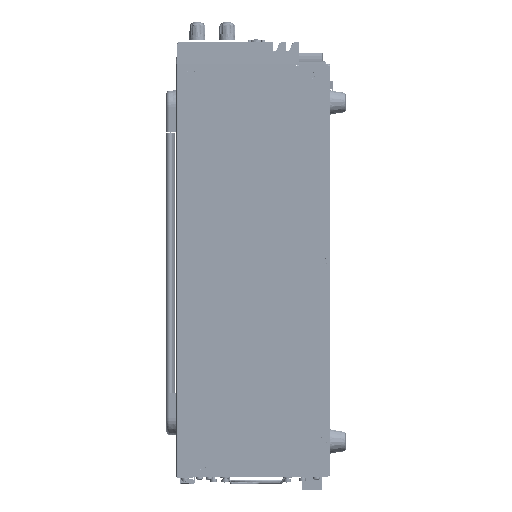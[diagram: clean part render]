
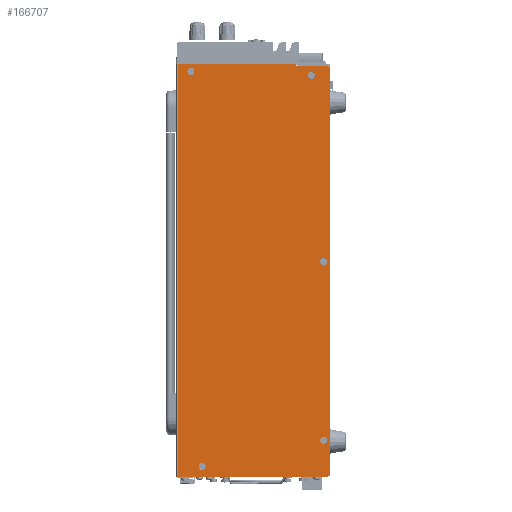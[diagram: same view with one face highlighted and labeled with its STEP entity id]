
A CAD part, left-side view. The second image highlights one B-rep face of the part: STEP entity #166707.
In plain terms, the highlighted planar face has unit normal (-1, 0, 0).
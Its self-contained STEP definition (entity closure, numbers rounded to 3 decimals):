
#164111=CARTESIAN_POINT('',(-177.2,112.,-6.));
#164112=DIRECTION('',(-1.,0.,0.));
#164113=DIRECTION('',(0.,1.,0.));
#164114=AXIS2_PLACEMENT_3D('',#164111,#164112,#164113);
#164116=CARTESIAN_POINT('',(-177.2,112.,-6.));
#164117=DIRECTION('',(-1.,0.,0.));
#164118=DIRECTION('',(0.,-1.,0.));
#164119=AXIS2_PLACEMENT_3D('',#164116,#164117,#164118);
#164121=CARTESIAN_POINT('',(-177.2,15.2,-9.));
#164122=DIRECTION('',(-1.,0.,0.));
#164123=DIRECTION('',(0.,1.,0.));
#164124=AXIS2_PLACEMENT_3D('',#164121,#164122,#164123);
#164126=CARTESIAN_POINT('',(-177.2,15.2,-9.));
#164127=DIRECTION('',(-1.,0.,0.));
#164128=DIRECTION('',(0.,-1.,0.));
#164129=AXIS2_PLACEMENT_3D('',#164126,#164127,#164128);
#164131=CARTESIAN_POINT('',(-177.2,5.2,-159.));
#164132=DIRECTION('',(-1.,0.,0.));
#164133=DIRECTION('',(0.,1.,0.));
#164134=AXIS2_PLACEMENT_3D('',#164131,#164132,#164133);
#164136=CARTESIAN_POINT('',(-177.2,5.2,-159.));
#164137=DIRECTION('',(-1.,0.,0.));
#164138=DIRECTION('',(0.,-1.,0.));
#164139=AXIS2_PLACEMENT_3D('',#164136,#164137,#164138);
#164141=CARTESIAN_POINT('',(-177.2,5.2,-303.));
#164142=DIRECTION('',(-1.,0.,0.));
#164143=DIRECTION('',(0.,1.,0.));
#164144=AXIS2_PLACEMENT_3D('',#164141,#164142,#164143);
#164146=CARTESIAN_POINT('',(-177.2,5.2,-303.));
#164147=DIRECTION('',(-1.,0.,0.));
#164148=DIRECTION('',(0.,-1.,0.));
#164149=AXIS2_PLACEMENT_3D('',#164146,#164147,#164148);
#164151=CARTESIAN_POINT('',(-177.2,103.,-324.));
#164152=DIRECTION('',(-1.,0.,0.));
#164153=DIRECTION('',(0.,1.,0.));
#164154=AXIS2_PLACEMENT_3D('',#164151,#164152,#164153);
#164156=CARTESIAN_POINT('',(-177.2,103.,-324.));
#164157=DIRECTION('',(-1.,0.,0.));
#164158=DIRECTION('',(0.,-1.,0.));
#164159=AXIS2_PLACEMENT_3D('',#164156,#164157,#164158);
#164161=CARTESIAN_POINT('',(-177.2,2.5,-330.5));
#164162=DIRECTION('',(-1.,0.,0.));
#164163=DIRECTION('',(0.,0.,-1.));
#164164=AXIS2_PLACEMENT_3D('',#164161,#164162,#164163);
#164166=DIRECTION('',(0.,0.,1.));
#164167=VECTOR('',#164166,332.5);
#164168=CARTESIAN_POINT('',(-177.2,122.9,-332.5));
#164169=LINE('',#164168,#164167);
#164170=DIRECTION('',(0.,0.,-1.));
#164171=VECTOR('',#164170,1.3);
#164172=CARTESIAN_POINT('',(-177.2,27.6,0.));
#164173=LINE('',#164172,#164171);
#164174=DIRECTION('',(0.,1.,0.));
#164175=VECTOR('',#164174,25.1);
#164176=CARTESIAN_POINT('',(-177.2,2.5,-1.3));
#164177=LINE('',#164176,#164175);
#164178=CARTESIAN_POINT('',(-177.2,2.5,-3.3));
#164179=DIRECTION('',(-1.,0.,0.));
#164180=DIRECTION('',(0.,-1.,0.));
#164181=AXIS2_PLACEMENT_3D('',#164178,#164179,#164180);
#164183=DIRECTION('',(0.,0.,-1.));
#164184=VECTOR('',#164183,327.2);
#164185=CARTESIAN_POINT('',(-177.2,0.5,-3.3));
#164186=LINE('',#164185,#164184);
#164231=DIRECTION('',(0.,1.,0.));
#164232=VECTOR('',#164231,120.4);
#164233=CARTESIAN_POINT('',(-177.2,2.5,-332.5));
#164234=LINE('',#164233,#164232);
#164255=DIRECTION('',(0.,1.,0.));
#164256=VECTOR('',#164255,95.3);
#164257=CARTESIAN_POINT('',(-177.2,27.6,0.));
#164258=LINE('',#164257,#164256);
#164621=CARTESIAN_POINT('',(-177.2,122.9,-332.5));
#164622=CARTESIAN_POINT('',(-177.2,122.9,0.));
#164623=VERTEX_POINT('',#164621);
#164624=VERTEX_POINT('',#164622);
#164629=CARTESIAN_POINT('',(-177.2,27.6,0.));
#164630=CARTESIAN_POINT('',(-177.2,27.6,-1.3));
#164631=VERTEX_POINT('',#164629);
#164632=VERTEX_POINT('',#164630);
#164682=CARTESIAN_POINT('',(-177.2,114.893,-6.));
#164684=VERTEX_POINT('',#164682);
#164686=CARTESIAN_POINT('',(-177.2,109.107,-6.));
#164688=VERTEX_POINT('',#164686);
#164690=CARTESIAN_POINT('',(-177.2,18.093,-9.));
#164692=VERTEX_POINT('',#164690);
#164694=CARTESIAN_POINT('',(-177.2,12.307,-9.));
#164696=VERTEX_POINT('',#164694);
#164698=CARTESIAN_POINT('',(-177.2,8.093,-159.));
#164700=VERTEX_POINT('',#164698);
#164702=CARTESIAN_POINT('',(-177.2,2.307,-159.));
#164704=VERTEX_POINT('',#164702);
#164706=CARTESIAN_POINT('',(-177.2,8.093,-303.));
#164708=VERTEX_POINT('',#164706);
#164710=CARTESIAN_POINT('',(-177.2,2.307,-303.));
#164712=VERTEX_POINT('',#164710);
#164714=CARTESIAN_POINT('',(-177.2,105.893,-324.));
#164716=VERTEX_POINT('',#164714);
#164718=CARTESIAN_POINT('',(-177.2,100.107,-324.));
#164720=VERTEX_POINT('',#164718);
#165090=CARTESIAN_POINT('',(-177.2,2.5,-332.5));
#165091=VERTEX_POINT('',#165090);
#165092=CARTESIAN_POINT('',(-177.2,0.5,-330.5));
#165093=VERTEX_POINT('',#165092);
#165098=CARTESIAN_POINT('',(-177.2,0.5,-3.3));
#165099=VERTEX_POINT('',#165098);
#165100=CARTESIAN_POINT('',(-177.2,2.5,-1.3));
#165101=VERTEX_POINT('',#165100);
#166656=CARTESIAN_POINT('',(-177.2,0.5,0.));
#166657=DIRECTION('',(1.,0.,0.));
#166658=DIRECTION('',(0.,1.,0.));
#166659=AXIS2_PLACEMENT_3D('',#166656,#166657,#166658);
#166660=PLANE('',#166659);
#166662=ORIENTED_EDGE('',*,*,#166661,.F.);
#166664=ORIENTED_EDGE('',*,*,#166663,.T.);
#166666=ORIENTED_EDGE('',*,*,#166665,.T.);
#166668=ORIENTED_EDGE('',*,*,#166667,.F.);
#166670=ORIENTED_EDGE('',*,*,#166669,.T.);
#166672=ORIENTED_EDGE('',*,*,#166671,.F.);
#166674=ORIENTED_EDGE('',*,*,#166673,.F.);
#166676=ORIENTED_EDGE('',*,*,#166675,.T.);
#166677=EDGE_LOOP('',(#166662,#166664,#166666,#166668,#166670,#166672,#166674,
#166676));
#166678=FACE_OUTER_BOUND('',#166677,.F.);
#166680=ORIENTED_EDGE('',*,*,#166679,.T.);
#166682=ORIENTED_EDGE('',*,*,#166681,.T.);
#166683=EDGE_LOOP('',(#166680,#166682));
#166684=FACE_BOUND('',#166683,.F.);
#166686=ORIENTED_EDGE('',*,*,#166685,.T.);
#166688=ORIENTED_EDGE('',*,*,#166687,.T.);
#166689=EDGE_LOOP('',(#166686,#166688));
#166690=FACE_BOUND('',#166689,.F.);
#166692=ORIENTED_EDGE('',*,*,#166691,.T.);
#166694=ORIENTED_EDGE('',*,*,#166693,.T.);
#166695=EDGE_LOOP('',(#166692,#166694));
#166696=FACE_BOUND('',#166695,.F.);
#166698=ORIENTED_EDGE('',*,*,#166697,.T.);
#166700=ORIENTED_EDGE('',*,*,#166699,.T.);
#166701=EDGE_LOOP('',(#166698,#166700));
#166702=FACE_BOUND('',#166701,.F.);
#166703=ORIENTED_EDGE('',*,*,#166638,.T.);
#166704=ORIENTED_EDGE('',*,*,#166649,.T.);
#166705=EDGE_LOOP('',(#166703,#166704));
#166706=FACE_BOUND('',#166705,.F.);
#166707=ADVANCED_FACE('',(#166678,#166684,#166690,#166696,#166702,#166706),
#166660,.F.);
#164115=CIRCLE('',#164114,2.893);
#164120=CIRCLE('',#164119,2.893);
#164125=CIRCLE('',#164124,2.893);
#164130=CIRCLE('',#164129,2.893);
#164135=CIRCLE('',#164134,2.893);
#164140=CIRCLE('',#164139,2.893);
#164145=CIRCLE('',#164144,2.893);
#164150=CIRCLE('',#164149,2.893);
#164155=CIRCLE('',#164154,2.893);
#164160=CIRCLE('',#164159,2.893);
#164165=CIRCLE('',#164164,2.);
#164182=CIRCLE('',#164181,2.);
#166638=EDGE_CURVE('',#164684,#164688,#164115,.T.);
#166649=EDGE_CURVE('',#164688,#164684,#164120,.T.);
#166661=EDGE_CURVE('',#165091,#165093,#164165,.T.);
#166663=EDGE_CURVE('',#165091,#164623,#164234,.T.);
#166665=EDGE_CURVE('',#164623,#164624,#164169,.T.);
#166667=EDGE_CURVE('',#164631,#164624,#164258,.T.);
#166669=EDGE_CURVE('',#164631,#164632,#164173,.T.);
#166671=EDGE_CURVE('',#165101,#164632,#164177,.T.);
#166673=EDGE_CURVE('',#165099,#165101,#164182,.T.);
#166675=EDGE_CURVE('',#165099,#165093,#164186,.T.);
#166679=EDGE_CURVE('',#164692,#164696,#164125,.T.);
#166681=EDGE_CURVE('',#164696,#164692,#164130,.T.);
#166685=EDGE_CURVE('',#164700,#164704,#164135,.T.);
#166687=EDGE_CURVE('',#164704,#164700,#164140,.T.);
#166691=EDGE_CURVE('',#164708,#164712,#164145,.T.);
#166693=EDGE_CURVE('',#164712,#164708,#164150,.T.);
#166697=EDGE_CURVE('',#164716,#164720,#164155,.T.);
#166699=EDGE_CURVE('',#164720,#164716,#164160,.T.);
